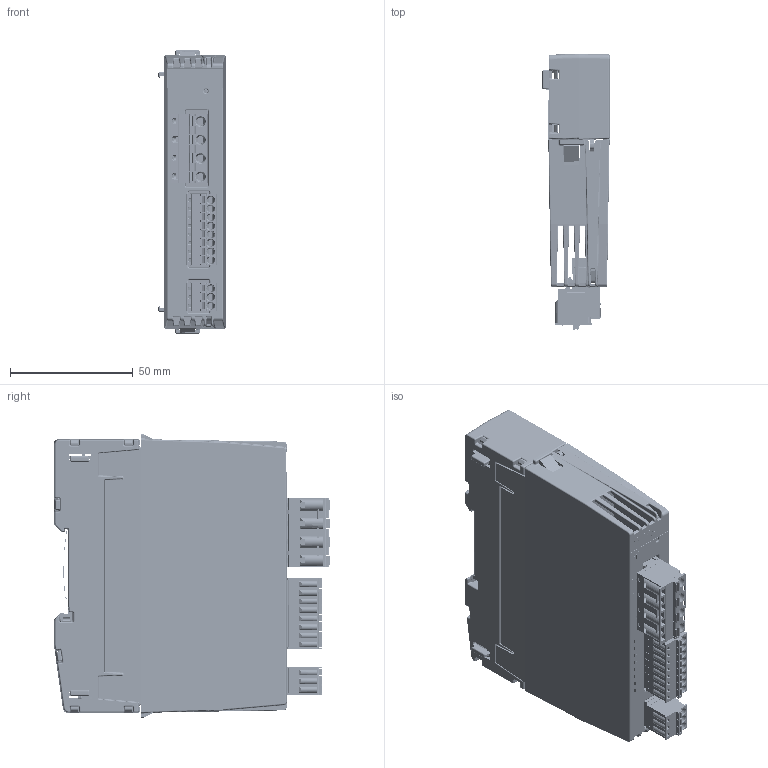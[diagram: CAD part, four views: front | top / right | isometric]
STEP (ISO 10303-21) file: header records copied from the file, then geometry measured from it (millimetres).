
FILE_DESCRIPTION(/* description */ (''),/* implementation_level */ '2;1');
FILE_NAME(/* name */ 'C:\Users\Public\Documents\Autodesk\Inventor 2023\PML4A_Simplified+BackBB21A.stp',/* time_stamp */ '2024-10-18T22:49:28+02:00',/* author */ ('shoma'),/* organization */ (''),/* preprocessor_version */ 'ST-DEVELOPER v19',/* originating_system */ 'Autodesk Inventor 2023',/* authorisation */ '');
FILE_SCHEMA (('AUTOMOTIVE_DESIGN { 1 0 10303 214 3 1 1 }'));
Products named in the file (1): PML4A_Simplified+BackBB21A
Bounding box: 27.4 x 112.6 x 115.5 mm (x, y, z)
Volume: 135794.3 mm3; surface area: 89496.8 mm2
Topology: 7 solids, 42 shells, 8437 faces, 22648 edges, 14255 vertices
Faces by surface type: plane 5488, cylinder 2072, bspline 529, sphere 163, cone 139, torus 46
Full cylindrical faces by diameter (mm): 0.296 x2, 0.3 x36, 0.434 x1, 0.457 x2, 0.7 x36, 0.8 x6, 0.85 x24, 0.9 x8, 1.17 x11, 1.25 x11, 1.3 x11, 1.4 x8, 1.5 x4, 1.6 x9, 2.35 x2, 2.5 x1, 2.8 x3, 3 x5, 3.1 x11, 3.25 x2, 4 x4
Entity records: 286077 total; most frequent: CARTESIAN_POINT 66170, ORIENTED_EDGE 44950, DIRECTION 42716, EDGE_CURVE 22475, LINE 16500, VECTOR 16500, VERTEX_POINT 14251, AXIS2_PLACEMENT_3D 13108
